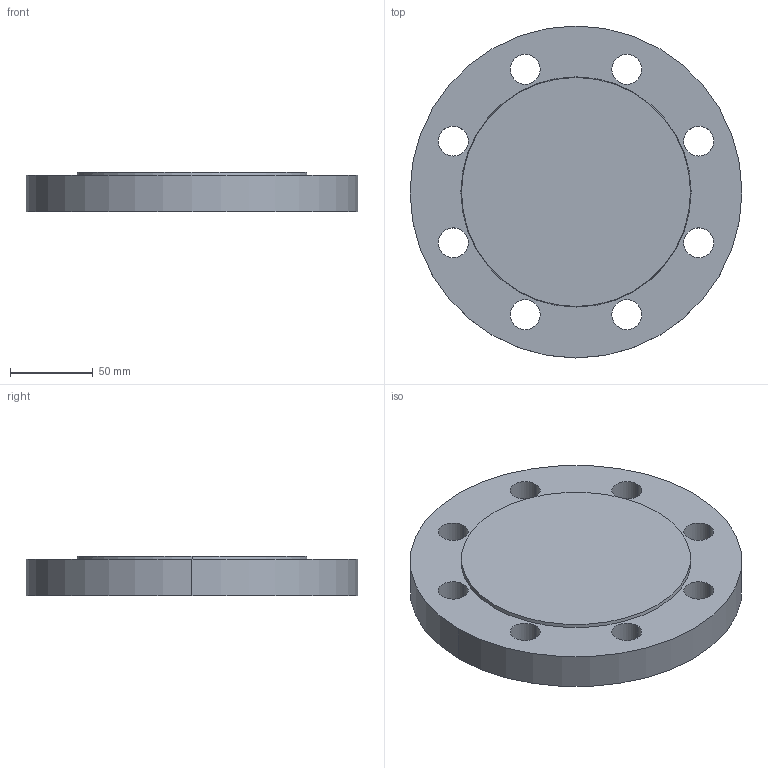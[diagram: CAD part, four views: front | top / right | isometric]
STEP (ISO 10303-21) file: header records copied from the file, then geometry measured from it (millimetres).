
FILE_DESCRIPTION (( 'STEP AP214' ), '1' );
FILE_NAME ('PN40 DN80 Type 05 - Type B Face.STEP', '2019-01-01T19:45:09', ( '' ), ( '' ), 'SwSTEP 2.0', 'SolidWorks 2019', '' );
FILE_SCHEMA (( 'AUTOMOTIVE_DESIGN' ));
Length unit declared in the file: millimetre
Products named in the file (1): PN40 DN80 Type 05 - Type B Face
Bounding box: 200 x 200 x 24 mm (x, y, z)
Volume: 676431.2 mm3; surface area: 83265.3 mm2
Topology: 1 solids, 1 shells, 23 faces, 60 edges, 40 vertices
Faces by surface type: cylinder 18, plane 3, cone 2
Entity records: 800 total; most frequent: DIRECTION 148, CARTESIAN_POINT 124, ORIENTED_EDGE 120, AXIS2_PLACEMENT_3D 64, EDGE_CURVE 60, CIRCLE 40, VERTEX_POINT 40, EDGE_LOOP 40
